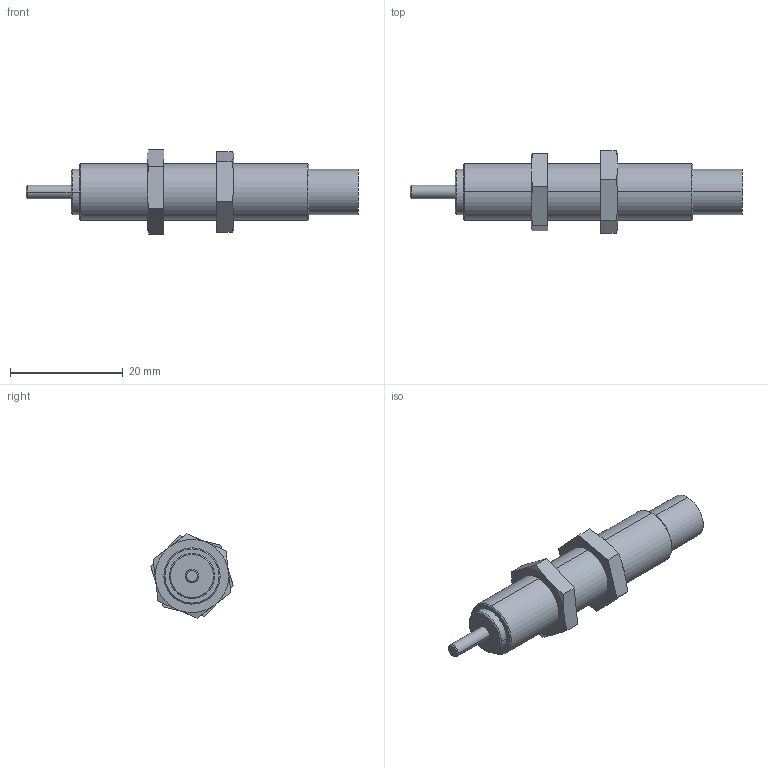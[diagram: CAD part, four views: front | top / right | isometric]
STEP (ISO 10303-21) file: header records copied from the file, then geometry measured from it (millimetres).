
FILE_DESCRIPTION (( 'STEP AP203' ), '1' );
FILE_NAME ('FSA-1008BB(CC)(CD).STEP', '2016-03-17T07:43:16', ( 'Sam Lin' ), ( '' ), 'SwSTEP 2.0', 'SolidWorks 2013', '' );
FILE_SCHEMA (( 'CONFIG_CONTROL_DESIGN' ));
Length unit declared in the file: metre
Products named in the file (3): FSA-1008BB(CC)(CD)_1; M10x1-3mm_1; FSA-1008BB(CC)(CD)
Assembly tree (3 placements, depth 2):
  FSA-1008BB(CC)(CD)
    FSA-1008BB(CC)(CD)_1
    M10x1-3mm_1  x2
Bounding box: 58.9 x 14.63 x 14.91 mm (x, y, z)
Volume: 4238.1 mm3; surface area: 2504.8 mm2
Topology: 3 solids, 3 shells, 53 faces, 116 edges, 72 vertices
Faces by surface type: plane 21, cylinder 12, bspline 12, cone 8
Entity records: 1449 total; most frequent: CARTESIAN_POINT 341, DIRECTION 168, ORIENTED_EDGE 160, EDGE_CURVE 80, AXIS2_PLACEMENT_3D 69, VERTEX_POINT 50, EDGE_LOOP 42, FACE_OUTER_BOUND 37
